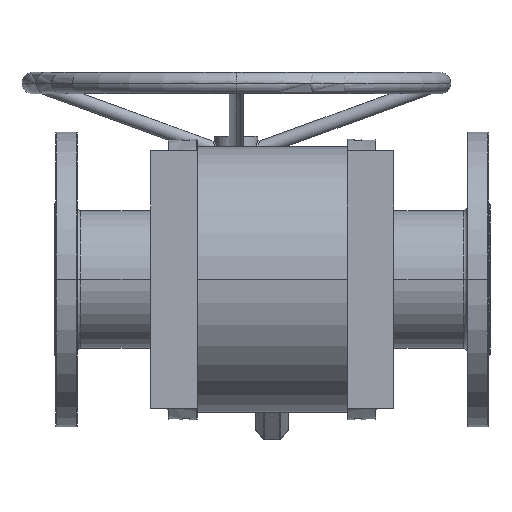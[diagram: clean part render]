
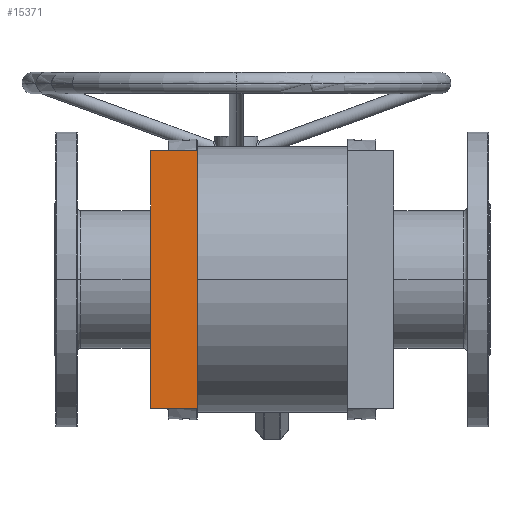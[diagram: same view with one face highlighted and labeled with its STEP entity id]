
A CAD part, front view. The second image highlights one B-rep face of the part: STEP entity #15371.
In plain terms, the highlighted planar face has unit normal (0, -1, 0).
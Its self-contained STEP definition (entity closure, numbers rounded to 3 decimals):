
#2053 = LINE ( 'NONE', #6453, #6133 ) ;
#2273 = ORIENTED_EDGE ( 'NONE', *, *, #24858, .T. ) ;
#3257 = VECTOR ( 'NONE', #20414, 1000. ) ;
#4549 = VERTEX_POINT ( 'NONE', #12394 ) ;
#5105 = PLANE ( 'NONE',  #17348 ) ;
#5373 = CARTESIAN_POINT ( 'NONE',  ( -145., -294., 0. ) ) ;
#5467 = VERTEX_POINT ( 'NONE', #5567 ) ;
#5567 = CARTESIAN_POINT ( 'NONE',  ( -170., -294., -180. ) ) ;
#6062 = CARTESIAN_POINT ( 'NONE',  ( -170., -294., -180. ) ) ;
#6133 = VECTOR ( 'NONE', #25481, 1000. ) ;
#6255 = CARTESIAN_POINT ( 'NONE',  ( -105., -294., 180. ) ) ;
#6453 = CARTESIAN_POINT ( 'NONE',  ( -145., -294., 180. ) ) ;
#6487 = CARTESIAN_POINT ( 'NONE',  ( -170., -294., 180. ) ) ;
#6563 = EDGE_LOOP ( 'NONE', ( #2273, #23559, #13560, #18559 ) ) ;
#7168 = EDGE_CURVE ( 'NONE', #5467, #23282, #11946, .T. ) ;
#7442 = VECTOR ( 'NONE', #19993, 1000. ) ;
#9076 = VERTEX_POINT ( 'NONE', #6255 ) ;
#10997 = LINE ( 'NONE', #13185, #7442 ) ;
#11539 = DIRECTION ( 'NONE',  ( 0., 1., 0. ) ) ;
#11823 = FACE_OUTER_BOUND ( 'NONE', #6563, .T. ) ;
#11946 = LINE ( 'NONE', #6062, #3257 ) ;
#12394 = CARTESIAN_POINT ( 'NONE',  ( -105., -294., -180. ) ) ;
#13185 = CARTESIAN_POINT ( 'NONE',  ( -105., -294., -180. ) ) ;
#13560 = ORIENTED_EDGE ( 'NONE', *, *, #23617, .F. ) ;
#15371 = ADVANCED_FACE ( 'NONE', ( #11823 ), #5105, .F. ) ;
#17348 = AXIS2_PLACEMENT_3D ( 'NONE', #5373, #11539, #20148 ) ;
#18559 = ORIENTED_EDGE ( 'NONE', *, *, #7168, .F. ) ;
#18729 = LINE ( 'NONE', #23135, #21262 ) ;
#19993 = DIRECTION ( 'NONE',  ( 0., 0., 1. ) ) ;
#20148 = DIRECTION ( 'NONE',  ( 0., 0., 1. ) ) ;
#20414 = DIRECTION ( 'NONE',  ( 0., 0., 1. ) ) ;
#21262 = VECTOR ( 'NONE', #25051, 1000. ) ;
#23135 = CARTESIAN_POINT ( 'NONE',  ( -145., -294., -180. ) ) ;
#23282 = VERTEX_POINT ( 'NONE', #6487 ) ;
#23362 = EDGE_CURVE ( 'NONE', #4549, #9076, #10997, .T. ) ;
#23559 = ORIENTED_EDGE ( 'NONE', *, *, #23362, .T. ) ;
#23617 = EDGE_CURVE ( 'NONE', #23282, #9076, #2053, .T. ) ;
#24858 = EDGE_CURVE ( 'NONE', #5467, #4549, #18729, .T. ) ;
#25051 = DIRECTION ( 'NONE',  ( 1., 0., 0. ) ) ;
#25481 = DIRECTION ( 'NONE',  ( 1., 0., 0. ) ) ;
